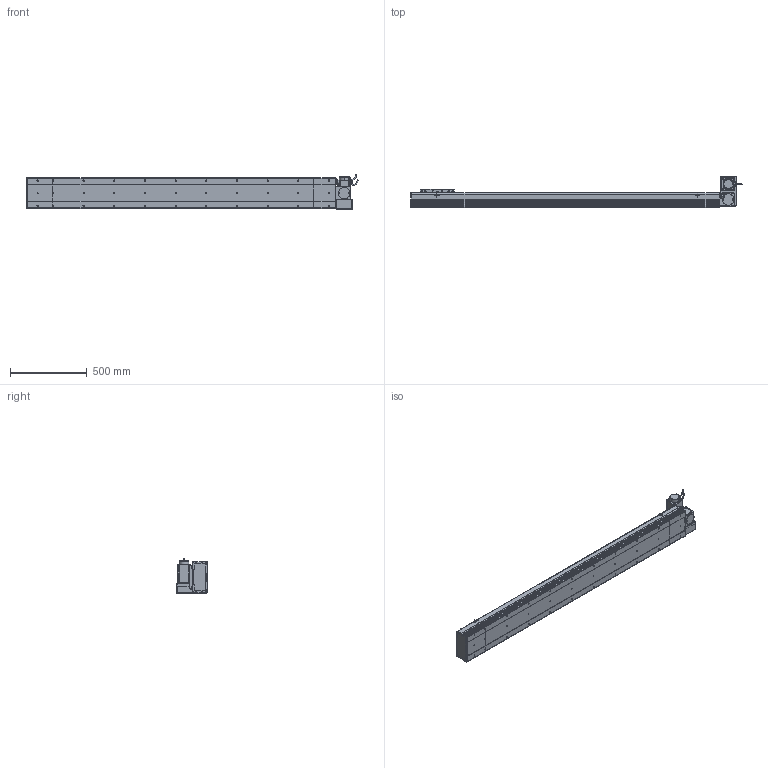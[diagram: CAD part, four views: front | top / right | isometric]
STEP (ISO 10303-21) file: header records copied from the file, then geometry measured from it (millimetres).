
FILE_DESCRIPTION (( 'STEP AP214' ), '1' );
FILE_NAME ('D20 CBH RT S1700.STEP', '2010-06-30T09:38:31', ( 'Conseil Régional Haute-Normandie' ), ( 'Conseil Régional Haute-Normandie' ), 'SwSTEP 2.0', 'SolidWorks 2010', '' );
FILE_SCHEMA (( 'AUTOMOTIVE_DESIGN' ));
Length unit declared in the file: millimetre
Products named in the file (31): vis M5 L15_Default; Plaque De Serrage D20_Default; Plaque de Bout Tail D20_Default; Couvercle_Default; Corp Tail D20+100_Default; Tail D20+100_Default; Couvercle S1700_Default; Corp D20 S1700_Default; Glissiere_Default; Chariot D20_Default; Corp S1700_Default; Support Chariot D20_Default; Rondelle Cache D20 RT_Default; D20 CBH RT S1700; Couvercle RT_Default; Corp Tail D20 RT_Default; Head RT_Default; Moteur motionking 90BLDC125A-640; Support moteur RT_Default; Plaque De Serrage D20 RT_Default; Plaque de Bout Head D20 RT_Default; codeur 90BLDC125-640; corps 90BLDC125A-640; avant 90BLDC125A-640; vis M5 L30_Default; Conecteur_Default; Conecteur2_Default; vis M5 L47_Default; Cache Support Moteur RT_Default; ecrou_Default
Assembly tree (68 placements, depth 4):
  D20 CBH RT S1700
    Tail D20+100_Default
      Couvercle_Default
      vis M5 L15_Default  x6
      Plaque de Bout Tail D20_Default
      Corp Tail D20+100_Default
      Plaque De Serrage D20_Default
    Corp D20 S1700_Default
      Couvercle S1700_Default
      Corp S1700_Default
    Head RT_Default
      vis M5 L15_Default  x14
      Rondelle Cache D20 RT_Default  x3
      vis M5 L30_Default  x4
      Corp Tail D20 RT_Default
      ecrou_Default  x4
      Cache Support Moteur RT_Default
      vis M5 L47_Default  x4
      Plaque De Serrage D20 RT_Default
      Moteur motionking 90BLDC125A-640
        avant 90BLDC125A-640
        corps 90BLDC125A-640
        Conecteur2_Default
        codeur 90BLDC125-640
        Conecteur_Default
      Plaque de Bout Head D20 RT_Default
      Support moteur RT_Default
      Couvercle RT_Default
    Chariot D20_Default
      vis M5 L15_Default  x8
      Support Chariot D20_Default
      Glissiere_Default
      Chariot D20_Default
Bounding box: 2164.45 x 206.5 x 229.7 mm (x, y, z)
Volume: 15028616.9 mm3; surface area: 2959615 mm2
Topology: 105 solids, 105 shells, 3811 faces, 9498 edges, 6166 vertices
Faces by surface type: plane 2128, bspline 806, cylinder 706, torus 95, cone 72, sphere 4
Entity records: 159350 total; most frequent: CARTESIAN_POINT 82307, ORIENTED_EDGE 15264, DIRECTION 11590, EDGE_CURVE 7632, VERTEX_POINT 5050, LINE 4948, VECTOR 4948, AXIS2_PLACEMENT_3D 3321
